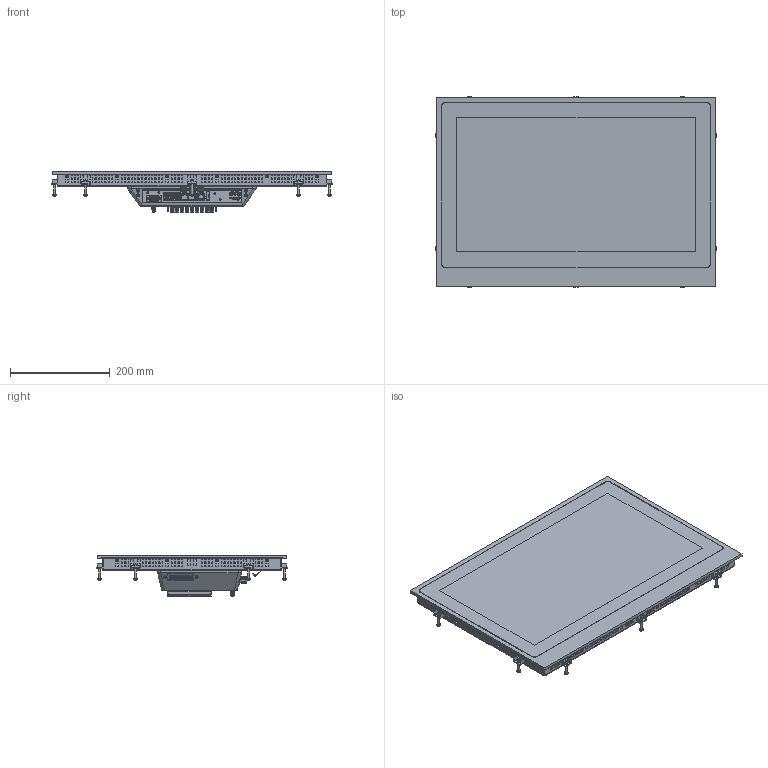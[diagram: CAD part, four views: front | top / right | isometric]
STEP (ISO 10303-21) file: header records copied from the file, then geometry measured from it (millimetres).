
FILE_DESCRIPTION(/* description */ (''),/* implementation_level */ '2;1');
FILE_NAME(/* name */ 'D:\Modelle vereinfacht\notion.S\778-11989-00\778-11989-00_IAM_000_Shrinkwrap.stp',/* time_stamp */ '2025-01-22T11:01:47+01:00',/* author */ ('Blessing'),/* organization */ (''),/* preprocessor_version */ 'ST-DEVELOPER v18.1',/* originating_system */ 'Autodesk Inventor 2021',/* authorisation */ '');
FILE_SCHEMA (('AUTOMOTIVE_DESIGN { 1 0 10303 214 3 1 1 }'));
Products named in the file (1): 778-11989-00_IAM_000_Shrinkwrap
Bounding box: 560.6 x 380.6 x 84 mm (x, y, z)
Volume: 7763239.7 mm3; surface area: 621806.6 mm2
Topology: 1 solids, 25 shells, 10821 faces, 30629 edges, 20056 vertices
Faces by surface type: plane 6816, cylinder 2270, bspline 1216, cone 398, torus 90, sphere 31
Full cylindrical faces by diameter (mm): 0.457 x1, 0.85 x1, 2.156 x2, 3 x5, 3.01 x5, 3.242 x9, 4 x24, 4.3 x2, 5.54 x38, 6 x1, 6.5 x2
Entity records: 391732 total; most frequent: CARTESIAN_POINT 107927, ORIENTED_EDGE 59603, DIRECTION 51236, EDGE_CURVE 30533, LINE 21532, VECTOR 21532, VERTEX_POINT 20080, AXIS2_PLACEMENT_3D 14852
